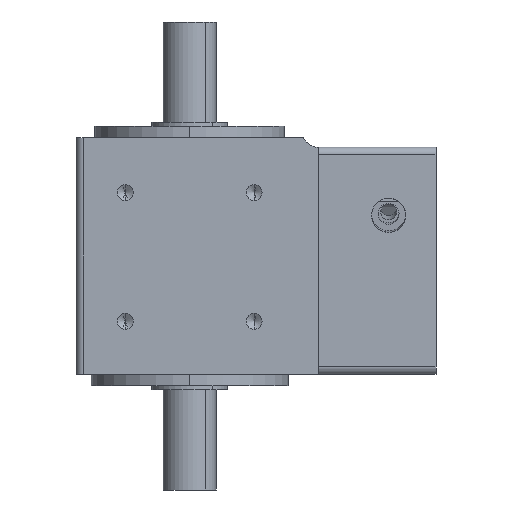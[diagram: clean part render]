
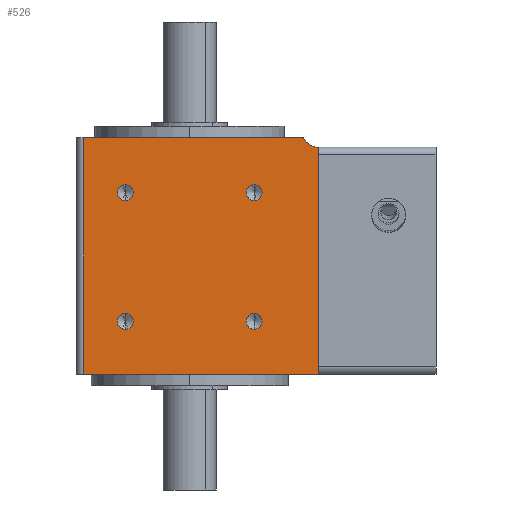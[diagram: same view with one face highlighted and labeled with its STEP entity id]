
A CAD part, left-side view. The second image highlights one B-rep face of the part: STEP entity #526.
In plain terms, the highlighted planar face has unit normal (-1, 0, 0).
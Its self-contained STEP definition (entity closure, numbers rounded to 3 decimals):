
#209 = EDGE_CURVE ( 'NONE', #28602, #26366, #14944, .T. ) ;
#365 = DIRECTION ( 'NONE',  ( 0., 0., 1. ) ) ;
#462 = AXIS2_PLACEMENT_3D ( 'NONE', #17123, #16978, #16910 ) ;
#475 = LINE ( 'NONE', #7564, #24790 ) ;
#526 = ADVANCED_FACE ( 'NONE', ( #5009, #24476, #29156, #23009, #11257 ), #17021, .F. ) ;
#1250 = CARTESIAN_POINT ( 'NONE',  ( -30., -32., 3. ) ) ;
#1346 = DIRECTION ( 'NONE',  ( -1., 0., 0. ) ) ;
#1403 = VERTEX_POINT ( 'NONE', #1250 ) ;
#1629 = ORIENTED_EDGE ( 'NONE', *, *, #3415, .F. ) ;
#1797 = DIRECTION ( 'NONE',  ( 0., 0., 1. ) ) ;
#1818 = CARTESIAN_POINT ( 'NONE',  ( -30., -32., 65.5 ) ) ;
#2182 = ORIENTED_EDGE ( 'NONE', *, *, #15406, .F. ) ;
#2209 = EDGE_LOOP ( 'NONE', ( #1629, #2182 ) ) ;
#2409 = ORIENTED_EDGE ( 'NONE', *, *, #20988, .F. ) ;
#2655 = DIRECTION ( 'NONE',  ( -1., 0., 0. ) ) ;
#2958 = CIRCLE ( 'NONE', #20919, 2.1 ) ;
#3415 = EDGE_CURVE ( 'NONE', #10933, #8587, #24831, .T. ) ;
#3673 = ORIENTED_EDGE ( 'NONE', *, *, #14485, .F. ) ;
#3857 = CARTESIAN_POINT ( 'NONE',  ( -30., 19., 53.1 ) ) ;
#4037 = LINE ( 'NONE', #12403, #28955 ) ;
#5009 = FACE_BOUND ( 'NONE', #13366, .T. ) ;
#5784 = EDGE_LOOP ( 'NONE', ( #27097, #6313 ) ) ;
#5789 = AXIS2_PLACEMENT_3D ( 'NONE', #24232, #10197, #26520 ) ;
#5868 = CARTESIAN_POINT ( 'NONE',  ( -30., 19., 14.9 ) ) ;
#6242 = VERTEX_POINT ( 'NONE', #26715 ) ;
#6313 = ORIENTED_EDGE ( 'NONE', *, *, #13608, .F. ) ;
#6611 = EDGE_CURVE ( 'NONE', #24419, #22226, #28741, .T. ) ;
#6654 = VERTEX_POINT ( 'NONE', #21585 ) ;
#6824 = EDGE_LOOP ( 'NONE', ( #3673, #21581, #2409, #23125, #14850 ) ) ;
#7564 = CARTESIAN_POINT ( 'NONE',  ( -30., 30., 68.5 ) ) ;
#7946 = VECTOR ( 'NONE', #18354, 1000. ) ;
#8587 = VERTEX_POINT ( 'NONE', #17409 ) ;
#8620 = ORIENTED_EDGE ( 'NONE', *, *, #209, .F. ) ;
#8686 = CARTESIAN_POINT ( 'NONE',  ( -30., -15., 19.1 ) ) ;
#8966 = VERTEX_POINT ( 'NONE', #8686 ) ;
#9742 = DIRECTION ( 'NONE',  ( -1., 0., 0. ) ) ;
#10197 = DIRECTION ( 'NONE',  ( -1., 0., 0. ) ) ;
#10933 = VERTEX_POINT ( 'NONE', #3857 ) ;
#11028 = CIRCLE ( 'NONE', #12274, 2.1 ) ;
#11257 = FACE_OUTER_BOUND ( 'NONE', #6824, .T. ) ;
#11934 = EDGE_CURVE ( 'NONE', #8966, #6654, #20357, .T. ) ;
#12227 = AXIS2_PLACEMENT_3D ( 'NONE', #15988, #16094, #16203 ) ;
#12274 = AXIS2_PLACEMENT_3D ( 'NONE', #27598, #13611, #29954 ) ;
#12403 = CARTESIAN_POINT ( 'NONE',  ( -30., -32., 68.5 ) ) ;
#12506 = ORIENTED_EDGE ( 'NONE', *, *, #16673, .F. ) ;
#13366 = EDGE_LOOP ( 'NONE', ( #8620, #12506 ) ) ;
#13608 = EDGE_CURVE ( 'NONE', #6654, #8966, #28987, .T. ) ;
#13611 = DIRECTION ( 'NONE',  ( -1., 0., 0. ) ) ;
#14014 = CIRCLE ( 'NONE', #25744, 2.1 ) ;
#14216 = LINE ( 'NONE', #1818, #7946 ) ;
#14376 = AXIS2_PLACEMENT_3D ( 'NONE', #15489, #1346, #17896 ) ;
#14430 = EDGE_CURVE ( 'NONE', #22226, #24419, #14014, .T. ) ;
#14485 = EDGE_CURVE ( 'NONE', #6242, #1403, #4037, .T. ) ;
#14534 = DIRECTION ( 'NONE',  ( -1., 0., 0. ) ) ;
#14850 = ORIENTED_EDGE ( 'NONE', *, *, #23523, .F. ) ;
#14944 = CIRCLE ( 'NONE', #26835, 2.1 ) ;
#15215 = AXIS2_PLACEMENT_3D ( 'NONE', #23801, #9742, #26106 ) ;
#15394 = ORIENTED_EDGE ( 'NONE', *, *, #14430, .F. ) ;
#15406 = EDGE_CURVE ( 'NONE', #8587, #10933, #2958, .T. ) ;
#15489 = CARTESIAN_POINT ( 'NONE',  ( -30., -15., 17. ) ) ;
#15527 = CARTESIAN_POINT ( 'NONE',  ( -30., 30., 65.5 ) ) ;
#15913 = DIRECTION ( 'NONE',  ( -1., 0., 0. ) ) ;
#15988 = CARTESIAN_POINT ( 'NONE',  ( -30., 19., 51. ) ) ;
#16094 = DIRECTION ( 'NONE',  ( -1., 0., 0. ) ) ;
#16203 = DIRECTION ( 'NONE',  ( 0., 0., 1. ) ) ;
#16319 = AXIS2_PLACEMENT_3D ( 'NONE', #29922, #15913, #1797 ) ;
#16673 = EDGE_CURVE ( 'NONE', #26366, #28602, #11028, .T. ) ;
#16782 = CARTESIAN_POINT ( 'NONE',  ( -30., 19., 51. ) ) ;
#16910 = DIRECTION ( 'NONE',  ( 0., 0., -1. ) ) ;
#16978 = DIRECTION ( 'NONE',  ( 1., 0., 0. ) ) ;
#17021 = PLANE ( 'NONE',  #462 ) ;
#17123 = CARTESIAN_POINT ( 'NONE',  ( -30., -32., 68.5 ) ) ;
#17409 = CARTESIAN_POINT ( 'NONE',  ( -30., 19., 48.9 ) ) ;
#17656 = EDGE_CURVE ( 'NONE', #28154, #6242, #26720, .T. ) ;
#17896 = DIRECTION ( 'NONE',  ( 0., 0., 1. ) ) ;
#18354 = DIRECTION ( 'NONE',  ( 0., -1., 0. ) ) ;
#19155 = DIRECTION ( 'NONE',  ( 0., 0., 1. ) ) ;
#20357 = CIRCLE ( 'NONE', #16319, 2.1 ) ;
#20638 = CARTESIAN_POINT ( 'NONE',  ( -30., -15., 53.1 ) ) ;
#20919 = AXIS2_PLACEMENT_3D ( 'NONE', #16782, #2655, #19155 ) ;
#20988 = EDGE_CURVE ( 'NONE', #26066, #28154, #14216, .T. ) ;
#21129 = VECTOR ( 'NONE', #26545, 1000. ) ;
#21581 = ORIENTED_EDGE ( 'NONE', *, *, #17656, .F. ) ;
#21585 = CARTESIAN_POINT ( 'NONE',  ( -30., -15., 14.9 ) ) ;
#22226 = VERTEX_POINT ( 'NONE', #5868 ) ;
#22360 = EDGE_CURVE ( 'NONE', #26066, #26866, #475, .T. ) ;
#23009 = FACE_BOUND ( 'NONE', #5784, .T. ) ;
#23078 = ORIENTED_EDGE ( 'NONE', *, *, #6611, .F. ) ;
#23125 = ORIENTED_EDGE ( 'NONE', *, *, #22360, .T. ) ;
#23440 = CARTESIAN_POINT ( 'NONE',  ( -30., -15., 48.9 ) ) ;
#23523 = EDGE_CURVE ( 'NONE', #1403, #26866, #27285, .T. ) ;
#23784 = CARTESIAN_POINT ( 'NONE',  ( -30., 30., 3. ) ) ;
#23801 = CARTESIAN_POINT ( 'NONE',  ( -30., 19., 17. ) ) ;
#24232 = CARTESIAN_POINT ( 'NONE',  ( -30., -32., 67.45 ) ) ;
#24249 = CARTESIAN_POINT ( 'NONE',  ( -30., -32., 3. ) ) ;
#24419 = VERTEX_POINT ( 'NONE', #29382 ) ;
#24476 = FACE_BOUND ( 'NONE', #2209, .T. ) ;
#24790 = VECTOR ( 'NONE', #26314, 1000. ) ;
#24831 = CIRCLE ( 'NONE', #12227, 2.1 ) ;
#25005 = EDGE_LOOP ( 'NONE', ( #23078, #15394 ) ) ;
#25744 = AXIS2_PLACEMENT_3D ( 'NONE', #28500, #14534, #365 ) ;
#26066 = VERTEX_POINT ( 'NONE', #15527 ) ;
#26106 = DIRECTION ( 'NONE',  ( 0., 0., 1. ) ) ;
#26223 = CARTESIAN_POINT ( 'NONE',  ( -30., -15., 51. ) ) ;
#26314 = DIRECTION ( 'NONE',  ( 0., 0., -1. ) ) ;
#26366 = VERTEX_POINT ( 'NONE', #23440 ) ;
#26375 = DIRECTION ( 'NONE',  ( 0., 0., -1. ) ) ;
#26395 = DIRECTION ( 'NONE',  ( -1., 0., 0. ) ) ;
#26490 = DIRECTION ( 'NONE',  ( 0., 0., 1. ) ) ;
#26520 = DIRECTION ( 'NONE',  ( 0., 0., 1. ) ) ;
#26545 = DIRECTION ( 'NONE',  ( 0., 1., 0. ) ) ;
#26715 = CARTESIAN_POINT ( 'NONE',  ( -30., -32., 62.95 ) ) ;
#26720 = CIRCLE ( 'NONE', #5789, 4.5 ) ;
#26835 = AXIS2_PLACEMENT_3D ( 'NONE', #26223, #26395, #26490 ) ;
#26866 = VERTEX_POINT ( 'NONE', #23784 ) ;
#27097 = ORIENTED_EDGE ( 'NONE', *, *, #11934, .F. ) ;
#27285 = LINE ( 'NONE', #24249, #21129 ) ;
#27598 = CARTESIAN_POINT ( 'NONE',  ( -30., -15., 51. ) ) ;
#28154 = VERTEX_POINT ( 'NONE', #30317 ) ;
#28500 = CARTESIAN_POINT ( 'NONE',  ( -30., 19., 17. ) ) ;
#28602 = VERTEX_POINT ( 'NONE', #20638 ) ;
#28741 = CIRCLE ( 'NONE', #15215, 2.1 ) ;
#28955 = VECTOR ( 'NONE', #26375, 1000. ) ;
#28987 = CIRCLE ( 'NONE', #14376, 2.1 ) ;
#29156 = FACE_BOUND ( 'NONE', #25005, .T. ) ;
#29382 = CARTESIAN_POINT ( 'NONE',  ( -30., 19., 19.1 ) ) ;
#29922 = CARTESIAN_POINT ( 'NONE',  ( -30., -15., 17. ) ) ;
#29954 = DIRECTION ( 'NONE',  ( 0., 0., 1. ) ) ;
#30317 = CARTESIAN_POINT ( 'NONE',  ( -30., -27.944, 65.5 ) ) ;
